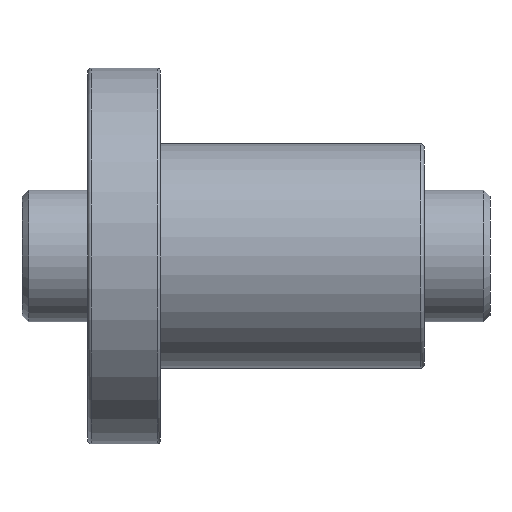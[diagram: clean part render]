
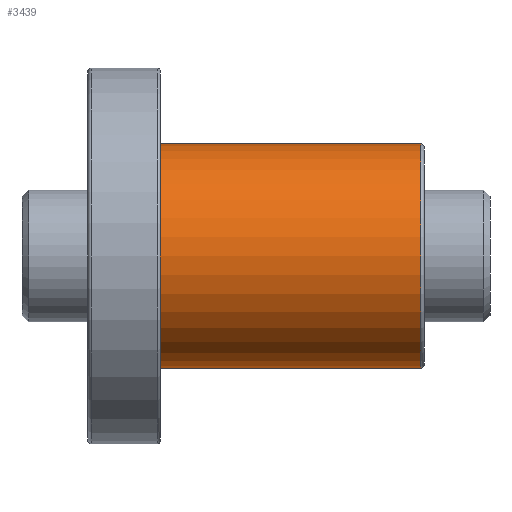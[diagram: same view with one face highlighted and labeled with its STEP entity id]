
A CAD part, front view. The second image highlights one B-rep face of the part: STEP entity #3439.
In plain terms, the highlighted cylindrical face has radius 17 mm (diameter 34 mm), a partial arc.
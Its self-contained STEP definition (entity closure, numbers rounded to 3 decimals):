
#135 = CARTESIAN_POINT ( 'NONE',  ( 11., 0., -17. ) ) ;
#159 = EDGE_CURVE ( 'NONE', #165, #1374, #3528, .T. ) ;
#165 = VERTEX_POINT ( 'NONE', #3015 ) ;
#178 = EDGE_CURVE ( 'NONE', #165, #1143, #4291, .T. ) ;
#559 = VECTOR ( 'NONE', #610, 1000. ) ;
#603 = CARTESIAN_POINT ( 'NONE',  ( 11., 0., 17. ) ) ;
#610 = DIRECTION ( 'NONE',  ( -1., 0., 0. ) ) ;
#883 = FACE_OUTER_BOUND ( 'NONE', #3873, .T. ) ;
#1060 = LINE ( 'NONE', #3078, #559 ) ;
#1112 = DIRECTION ( 'NONE',  ( 0., 0., -1. ) ) ;
#1143 = VERTEX_POINT ( 'NONE', #3769 ) ;
#1374 = VERTEX_POINT ( 'NONE', #135 ) ;
#1382 = ORIENTED_EDGE ( 'NONE', *, *, #3426, .T. ) ;
#1440 = AXIS2_PLACEMENT_3D ( 'NONE', #2325, #1613, #3737 ) ;
#1594 = CARTESIAN_POINT ( 'NONE',  ( 44., 0., -17. ) ) ;
#1595 = ORIENTED_EDGE ( 'NONE', *, *, #159, .F. ) ;
#1613 = DIRECTION ( 'NONE',  ( -1., 0., 0. ) ) ;
#2015 = DIRECTION ( 'NONE',  ( -1., 0., 0. ) ) ;
#2180 = DIRECTION ( 'NONE',  ( 1., 0., 0. ) ) ;
#2325 = CARTESIAN_POINT ( 'NONE',  ( 50.5, 0., 0. ) ) ;
#2353 = EDGE_CURVE ( 'NONE', #2544, #1374, #3739, .T. ) ;
#2544 = VERTEX_POINT ( 'NONE', #603 ) ;
#2626 = DIRECTION ( 'NONE',  ( -1., 0., 0. ) ) ;
#2728 = DIRECTION ( 'NONE',  ( 0., 0., 1. ) ) ;
#2770 = ORIENTED_EDGE ( 'NONE', *, *, #2353, .T. ) ;
#3015 = CARTESIAN_POINT ( 'NONE',  ( 50.5, 0., -17. ) ) ;
#3078 = CARTESIAN_POINT ( 'NONE',  ( 44., 0., 17. ) ) ;
#3211 = CARTESIAN_POINT ( 'NONE',  ( 11., 0., 0. ) ) ;
#3345 = AXIS2_PLACEMENT_3D ( 'NONE', #3211, #2180, #1112 ) ;
#3352 = AXIS2_PLACEMENT_3D ( 'NONE', #3767, #2015, #2728 ) ;
#3426 = EDGE_CURVE ( 'NONE', #1143, #2544, #1060, .T. ) ;
#3439 = ADVANCED_FACE ( 'NONE', ( #883 ), #4391, .T. ) ;
#3528 = LINE ( 'NONE', #1594, #3974 ) ;
#3737 = DIRECTION ( 'NONE',  ( 0., 0., -1. ) ) ;
#3739 = CIRCLE ( 'NONE', #3345, 17. ) ;
#3767 = CARTESIAN_POINT ( 'NONE',  ( 44., 0., 0. ) ) ;
#3769 = CARTESIAN_POINT ( 'NONE',  ( 50.5, 0., 17. ) ) ;
#3825 = ORIENTED_EDGE ( 'NONE', *, *, #178, .T. ) ;
#3873 = EDGE_LOOP ( 'NONE', ( #1595, #3825, #1382, #2770 ) ) ;
#3974 = VECTOR ( 'NONE', #2626, 1000. ) ;
#4291 = CIRCLE ( 'NONE', #1440, 17. ) ;
#4391 = CYLINDRICAL_SURFACE ( 'NONE', #3352, 17. ) ;
